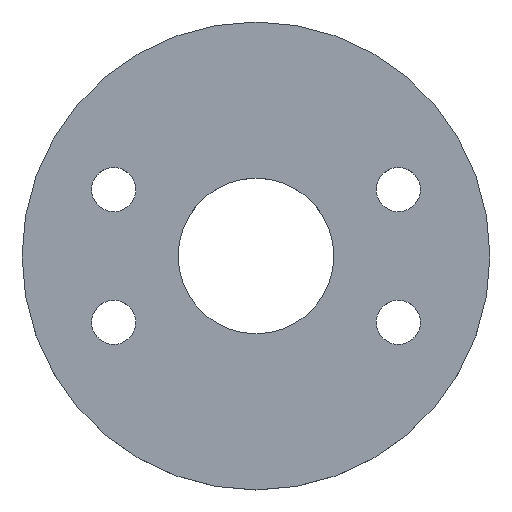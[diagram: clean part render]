
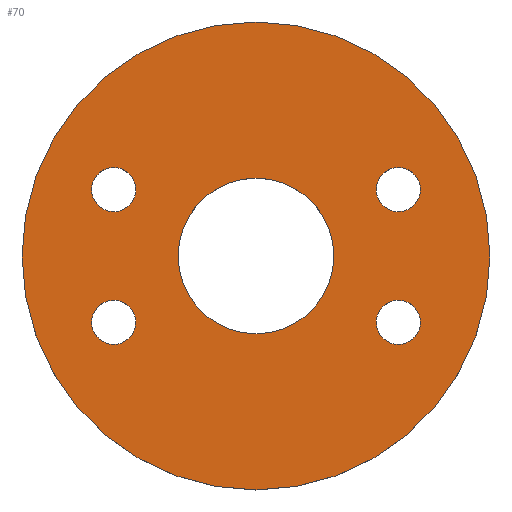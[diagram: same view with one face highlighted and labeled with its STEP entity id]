
A CAD part, top view. The second image highlights one B-rep face of the part: STEP entity #70.
In plain terms, the highlighted planar face has unit normal (0, 0, 1).
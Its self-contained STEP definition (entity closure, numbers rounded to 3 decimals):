
#5 = EDGE_CURVE ( 'NONE', #514, #176, #542, .T. ) ;
#6 = VERTEX_POINT ( 'NONE', #473 ) ;
#15 = PLANE ( 'NONE',  #113 ) ;
#22 = CARTESIAN_POINT ( 'NONE',  ( -189.995, -76.705, 20. ) ) ;
#27 = DIRECTION ( 'NONE',  ( 0., 0., 1. ) ) ;
#31 = EDGE_LOOP ( 'NONE', ( #244, #507 ) ) ;
#39 = CIRCLE ( 'NONE', #189, 90. ) ;
#44 = AXIS2_PLACEMENT_3D ( 'NONE', #204, #496, #252 ) ;
#54 = DIRECTION ( 'NONE',  ( 0., 0., 1. ) ) ;
#59 = FACE_BOUND ( 'NONE', #31, .T. ) ;
#69 = CARTESIAN_POINT ( 'NONE',  ( 164.495, 76.705, 20. ) ) ;
#70 = ADVANCED_FACE ( 'NONE', ( #330, #341, #365, #59, #88, #357 ), #15, .T. ) ;
#72 = DIRECTION ( 'NONE',  ( -1., 0., 0. ) ) ;
#80 = EDGE_CURVE ( 'NONE', #138, #129, #172, .T. ) ;
#88 = FACE_OUTER_BOUND ( 'NONE', #336, .T. ) ;
#92 = VERTEX_POINT ( 'NONE', #385 ) ;
#96 = DIRECTION ( 'NONE',  ( 0., 0., 1. ) ) ;
#112 = VERTEX_POINT ( 'NONE', #438 ) ;
#113 = AXIS2_PLACEMENT_3D ( 'NONE', #314, #96, #180 ) ;
#115 = DIRECTION ( 'NONE',  ( 0., 0., 1. ) ) ;
#120 = VERTEX_POINT ( 'NONE', #237 ) ;
#129 = VERTEX_POINT ( 'NONE', #188 ) ;
#133 = AXIS2_PLACEMENT_3D ( 'NONE', #275, #518, #234 ) ;
#138 = VERTEX_POINT ( 'NONE', #268 ) ;
#139 = EDGE_LOOP ( 'NONE', ( #213, #371 ) ) ;
#154 = DIRECTION ( 'NONE',  ( 1., 0., 0. ) ) ;
#156 = EDGE_CURVE ( 'NONE', #176, #514, #187, .T. ) ;
#159 = CIRCLE ( 'NONE', #367, 25.5 ) ;
#170 = AXIS2_PLACEMENT_3D ( 'NONE', #271, #54, #470 ) ;
#172 = CIRCLE ( 'NONE', #229, 25.5 ) ;
#176 = VERTEX_POINT ( 'NONE', #22 ) ;
#180 = DIRECTION ( 'NONE',  ( 1., 0., 0. ) ) ;
#181 = DIRECTION ( 'NONE',  ( -1., 0., 0. ) ) ;
#187 = CIRCLE ( 'NONE', #133, 25.5 ) ;
#188 = CARTESIAN_POINT ( 'NONE',  ( 138.995, -76.705, 20. ) ) ;
#189 = AXIS2_PLACEMENT_3D ( 'NONE', #301, #208, #231 ) ;
#196 = DIRECTION ( 'NONE',  ( 0., 0., 1. ) ) ;
#201 = CIRCLE ( 'NONE', #437, 25.5 ) ;
#204 = CARTESIAN_POINT ( 'NONE',  ( 0., 0., 20. ) ) ;
#208 = DIRECTION ( 'NONE',  ( 0., 0., 1. ) ) ;
#213 = ORIENTED_EDGE ( 'NONE', *, *, #5, .F. ) ;
#220 = AXIS2_PLACEMENT_3D ( 'NONE', #261, #333, #250 ) ;
#224 = CIRCLE ( 'NONE', #392, 90. ) ;
#226 = ORIENTED_EDGE ( 'NONE', *, *, #329, .F. ) ;
#229 = AXIS2_PLACEMENT_3D ( 'NONE', #306, #391, #181 ) ;
#231 = DIRECTION ( 'NONE',  ( 1., 0., 0. ) ) ;
#234 = DIRECTION ( 'NONE',  ( 1., 0., 0. ) ) ;
#237 = CARTESIAN_POINT ( 'NONE',  ( -189.995, 76.705, 20. ) ) ;
#241 = DIRECTION ( 'NONE',  ( 0., 0., 1. ) ) ;
#244 = ORIENTED_EDGE ( 'NONE', *, *, #269, .F. ) ;
#245 = CARTESIAN_POINT ( 'NONE',  ( 0., 0., 20. ) ) ;
#250 = DIRECTION ( 'NONE',  ( -1., 0., 0. ) ) ;
#252 = DIRECTION ( 'NONE',  ( 1., 0., 0. ) ) ;
#255 = EDGE_CURVE ( 'NONE', #376, #120, #201, .T. ) ;
#256 = EDGE_LOOP ( 'NONE', ( #264, #420 ) ) ;
#261 = CARTESIAN_POINT ( 'NONE',  ( 164.495, -76.705, 20. ) ) ;
#264 = ORIENTED_EDGE ( 'NONE', *, *, #80, .F. ) ;
#268 = CARTESIAN_POINT ( 'NONE',  ( 189.995, -76.705, 20. ) ) ;
#269 = EDGE_CURVE ( 'NONE', #6, #92, #415, .T. ) ;
#270 = CARTESIAN_POINT ( 'NONE',  ( 270.5, 0., 20. ) ) ;
#271 = CARTESIAN_POINT ( 'NONE',  ( -164.495, -76.705, 20. ) ) ;
#273 = EDGE_CURVE ( 'NONE', #498, #450, #416, .T. ) ;
#275 = CARTESIAN_POINT ( 'NONE',  ( -164.495, -76.705, 20. ) ) ;
#279 = ORIENTED_EDGE ( 'NONE', *, *, #273, .T. ) ;
#280 = EDGE_CURVE ( 'NONE', #92, #6, #159, .T. ) ;
#282 = CARTESIAN_POINT ( 'NONE',  ( 164.495, 76.705, 20. ) ) ;
#286 = DIRECTION ( 'NONE',  ( 0., 0., 1. ) ) ;
#298 = VERTEX_POINT ( 'NONE', #362 ) ;
#301 = CARTESIAN_POINT ( 'NONE',  ( 0., 0., 20. ) ) ;
#305 = EDGE_LOOP ( 'NONE', ( #339, #458 ) ) ;
#306 = CARTESIAN_POINT ( 'NONE',  ( 164.495, -76.705, 20. ) ) ;
#314 = CARTESIAN_POINT ( 'NONE',  ( 0., 0., 20. ) ) ;
#320 = DIRECTION ( 'NONE',  ( 0., 0., 1. ) ) ;
#322 = CARTESIAN_POINT ( 'NONE',  ( -270.5, 0., 20. ) ) ;
#324 = DIRECTION ( 'NONE',  ( 1., 0., 0. ) ) ;
#329 = EDGE_CURVE ( 'NONE', #120, #376, #432, .T. ) ;
#330 = FACE_BOUND ( 'NONE', #520, .T. ) ;
#333 = DIRECTION ( 'NONE',  ( 0., 0., 1. ) ) ;
#335 = EDGE_CURVE ( 'NONE', #112, #298, #224, .T. ) ;
#336 = EDGE_LOOP ( 'NONE', ( #453, #279 ) ) ;
#337 = AXIS2_PLACEMENT_3D ( 'NONE', #245, #196, #154 ) ;
#339 = ORIENTED_EDGE ( 'NONE', *, *, #335, .F. ) ;
#341 = FACE_BOUND ( 'NONE', #139, .T. ) ;
#342 = ORIENTED_EDGE ( 'NONE', *, *, #255, .F. ) ;
#357 = FACE_BOUND ( 'NONE', #305, .T. ) ;
#360 = EDGE_CURVE ( 'NONE', #450, #498, #506, .T. ) ;
#362 = CARTESIAN_POINT ( 'NONE',  ( 90., 0., 20. ) ) ;
#364 = CARTESIAN_POINT ( 'NONE',  ( 0., 0., 20. ) ) ;
#365 = FACE_BOUND ( 'NONE', #256, .T. ) ;
#367 = AXIS2_PLACEMENT_3D ( 'NONE', #282, #27, #324 ) ;
#370 = CARTESIAN_POINT ( 'NONE',  ( -138.995, -76.705, 20. ) ) ;
#371 = ORIENTED_EDGE ( 'NONE', *, *, #156, .F. ) ;
#376 = VERTEX_POINT ( 'NONE', #541 ) ;
#385 = CARTESIAN_POINT ( 'NONE',  ( 138.995, 76.705, 20. ) ) ;
#391 = DIRECTION ( 'NONE',  ( 0., 0., 1. ) ) ;
#392 = AXIS2_PLACEMENT_3D ( 'NONE', #364, #115, #411 ) ;
#405 = AXIS2_PLACEMENT_3D ( 'NONE', #69, #320, #445 ) ;
#411 = DIRECTION ( 'NONE',  ( 1., 0., 0. ) ) ;
#415 = CIRCLE ( 'NONE', #405, 25.5 ) ;
#416 = CIRCLE ( 'NONE', #337, 270.5 ) ;
#417 = CIRCLE ( 'NONE', #220, 25.5 ) ;
#420 = ORIENTED_EDGE ( 'NONE', *, *, #529, .F. ) ;
#432 = CIRCLE ( 'NONE', #477, 25.5 ) ;
#437 = AXIS2_PLACEMENT_3D ( 'NONE', #484, #241, #526 ) ;
#438 = CARTESIAN_POINT ( 'NONE',  ( -90., 0., 20. ) ) ;
#445 = DIRECTION ( 'NONE',  ( 1., 0., 0. ) ) ;
#450 = VERTEX_POINT ( 'NONE', #322 ) ;
#453 = ORIENTED_EDGE ( 'NONE', *, *, #360, .T. ) ;
#458 = ORIENTED_EDGE ( 'NONE', *, *, #468, .F. ) ;
#468 = EDGE_CURVE ( 'NONE', #298, #112, #39, .T. ) ;
#470 = DIRECTION ( 'NONE',  ( 1., 0., 0. ) ) ;
#473 = CARTESIAN_POINT ( 'NONE',  ( 189.995, 76.705, 20. ) ) ;
#477 = AXIS2_PLACEMENT_3D ( 'NONE', #537, #286, #72 ) ;
#484 = CARTESIAN_POINT ( 'NONE',  ( -164.495, 76.705, 20. ) ) ;
#496 = DIRECTION ( 'NONE',  ( 0., 0., 1. ) ) ;
#498 = VERTEX_POINT ( 'NONE', #270 ) ;
#506 = CIRCLE ( 'NONE', #44, 270.5 ) ;
#507 = ORIENTED_EDGE ( 'NONE', *, *, #280, .F. ) ;
#514 = VERTEX_POINT ( 'NONE', #370 ) ;
#518 = DIRECTION ( 'NONE',  ( 0., 0., 1. ) ) ;
#520 = EDGE_LOOP ( 'NONE', ( #342, #226 ) ) ;
#526 = DIRECTION ( 'NONE',  ( -1., 0., 0. ) ) ;
#529 = EDGE_CURVE ( 'NONE', #129, #138, #417, .T. ) ;
#537 = CARTESIAN_POINT ( 'NONE',  ( -164.495, 76.705, 20. ) ) ;
#541 = CARTESIAN_POINT ( 'NONE',  ( -138.995, 76.705, 20. ) ) ;
#542 = CIRCLE ( 'NONE', #170, 25.5 ) ;
